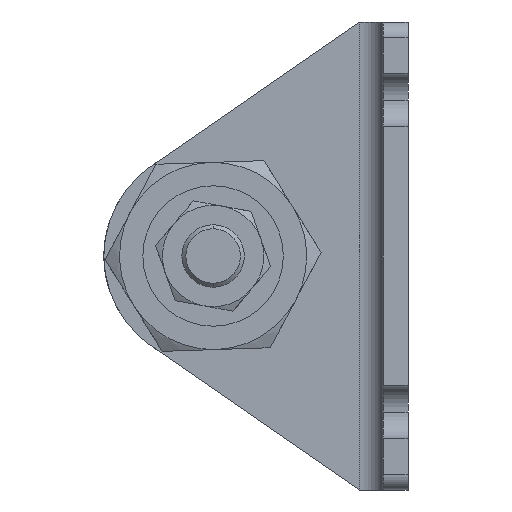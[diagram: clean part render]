
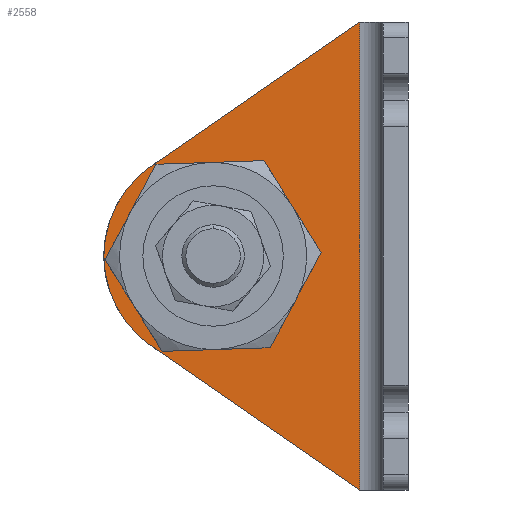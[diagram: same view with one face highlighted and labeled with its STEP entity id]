
A CAD part, left-side view. The second image highlights one B-rep face of the part: STEP entity #2558.
In plain terms, the highlighted planar face has unit normal (-1, 0, 0) as drawn and (1, 0, 0) by its records, which use the part's own axes.
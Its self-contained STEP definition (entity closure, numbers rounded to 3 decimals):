
#56 = VERTEX_POINT ( 'NONE', #2059 ) ;
#118 = ORIENTED_EDGE ( 'NONE', *, *, #1950, .F. ) ;
#177 = CIRCLE ( 'NONE', #985, 14. ) ;
#211 = VERTEX_POINT ( 'NONE', #670 ) ;
#224 = VERTEX_POINT ( 'NONE', #1644 ) ;
#337 = ORIENTED_EDGE ( 'NONE', *, *, #2060, .T. ) ;
#350 = VERTEX_POINT ( 'NONE', #2649 ) ;
#376 = AXIS2_PLACEMENT_3D ( 'NONE', #3349, #3059, #1204 ) ;
#387 = AXIS2_PLACEMENT_3D ( 'NONE', #3411, #3715, #2189 ) ;
#670 = CARTESIAN_POINT ( 'NONE',  ( 3.2, 6.2, -60. ) ) ;
#775 = VERTEX_POINT ( 'NONE', #931 ) ;
#804 = ORIENTED_EDGE ( 'NONE', *, *, #3154, .F. ) ;
#889 = FACE_OUTER_BOUND ( 'NONE', #2421, .T. ) ;
#926 = CARTESIAN_POINT ( 'NONE',  ( 3.2, 6.2, -60. ) ) ;
#931 = CARTESIAN_POINT ( 'NONE',  ( 3.2, 15.5, -30. ) ) ;
#985 = AXIS2_PLACEMENT_3D ( 'NONE', #2099, #3676, #3389 ) ;
#1143 = LINE ( 'NONE', #3790, #4286 ) ;
#1204 = DIRECTION ( 'NONE',  ( 0., 1., 0. ) ) ;
#1336 = CARTESIAN_POINT ( 'NONE',  ( 3.2, 4.169, -61.403 ) ) ;
#1644 = CARTESIAN_POINT ( 'NONE',  ( 3.2, 6.2, 0. ) ) ;
#1783 = CARTESIAN_POINT ( 'NONE',  ( 3.2, 25., -30. ) ) ;
#1796 = ORIENTED_EDGE ( 'NONE', *, *, #4138, .T. ) ;
#1883 = FACE_BOUND ( 'NONE', #2888, .T. ) ;
#1938 = DIRECTION ( 'NONE',  ( 0., 0.823, -0.568 ) ) ;
#1950 = EDGE_CURVE ( 'NONE', #224, #2432, #1143, .T. ) ;
#2010 = CARTESIAN_POINT ( 'NONE',  ( 3.2, 32.956, -18.481 ) ) ;
#2059 = CARTESIAN_POINT ( 'NONE',  ( 3.2, 32.956, -41.519 ) ) ;
#2060 = EDGE_CURVE ( 'NONE', #211, #56, #3195, .T. ) ;
#2068 = CARTESIAN_POINT ( 'NONE',  ( 3.2, 34.5, -30. ) ) ;
#2099 = CARTESIAN_POINT ( 'NONE',  ( 3.2, 25., -30. ) ) ;
#2189 = DIRECTION ( 'NONE',  ( 0., 1., 0. ) ) ;
#2193 = ORIENTED_EDGE ( 'NONE', *, *, #3618, .F. ) ;
#2249 = LINE ( 'NONE', #926, #2790 ) ;
#2271 = DIRECTION ( 'NONE',  ( 0., 0., -1. ) ) ;
#2278 = ORIENTED_EDGE ( 'NONE', *, *, #3521, .T. ) ;
#2401 = VERTEX_POINT ( 'NONE', #2068 ) ;
#2410 = DIRECTION ( 'NONE',  ( 1., 0., 0. ) ) ;
#2421 = EDGE_LOOP ( 'NONE', ( #337, #2278, #1796, #118, #2475 ) ) ;
#2432 = VERTEX_POINT ( 'NONE', #2010 ) ;
#2475 = ORIENTED_EDGE ( 'NONE', *, *, #2549, .T. ) ;
#2549 = EDGE_CURVE ( 'NONE', #224, #211, #2249, .T. ) ;
#2558 = ADVANCED_FACE ( 'NONE', ( #1883, #889 ), #3309, .T. ) ;
#2647 = CIRCLE ( 'NONE', #376, 14. ) ;
#2649 = CARTESIAN_POINT ( 'NONE',  ( 3.2, 39., -30. ) ) ;
#2790 = VECTOR ( 'NONE', #2271, 1000. ) ;
#2888 = EDGE_LOOP ( 'NONE', ( #2193, #804 ) ) ;
#3044 = DIRECTION ( 'NONE',  ( 0., 0.823, 0.568 ) ) ;
#3059 = DIRECTION ( 'NONE',  ( 1., 0., 0. ) ) ;
#3132 = AXIS2_PLACEMENT_3D ( 'NONE', #1783, #4255, #3212 ) ;
#3154 = EDGE_CURVE ( 'NONE', #775, #2401, #4009, .T. ) ;
#3195 = LINE ( 'NONE', #1336, #4183 ) ;
#3212 = DIRECTION ( 'NONE',  ( 0., 1., 0. ) ) ;
#3309 = PLANE ( 'NONE',  #4288 ) ;
#3349 = CARTESIAN_POINT ( 'NONE',  ( 3.2, 25., -30. ) ) ;
#3389 = DIRECTION ( 'NONE',  ( 0., 1., 0. ) ) ;
#3411 = CARTESIAN_POINT ( 'NONE',  ( 3.2, 25., -30. ) ) ;
#3521 = EDGE_CURVE ( 'NONE', #56, #350, #2647, .T. ) ;
#3618 = EDGE_CURVE ( 'NONE', #2401, #775, #4046, .T. ) ;
#3676 = DIRECTION ( 'NONE',  ( 1., 0., 0. ) ) ;
#3715 = DIRECTION ( 'NONE',  ( 1., 0., 0. ) ) ;
#3790 = CARTESIAN_POINT ( 'NONE',  ( 3.2, 32.226, -17.976 ) ) ;
#3809 = CARTESIAN_POINT ( 'NONE',  ( 3.2, 3.2, -60. ) ) ;
#4009 = CIRCLE ( 'NONE', #3132, 9.5 ) ;
#4046 = CIRCLE ( 'NONE', #387, 9.5 ) ;
#4138 = EDGE_CURVE ( 'NONE', #350, #2432, #177, .T. ) ;
#4158 = DIRECTION ( 'NONE',  ( 0., 1., 0. ) ) ;
#4183 = VECTOR ( 'NONE', #3044, 1000. ) ;
#4255 = DIRECTION ( 'NONE',  ( 1., 0., 0. ) ) ;
#4286 = VECTOR ( 'NONE', #1938, 1000. ) ;
#4288 = AXIS2_PLACEMENT_3D ( 'NONE', #3809, #2410, #4158 ) ;
